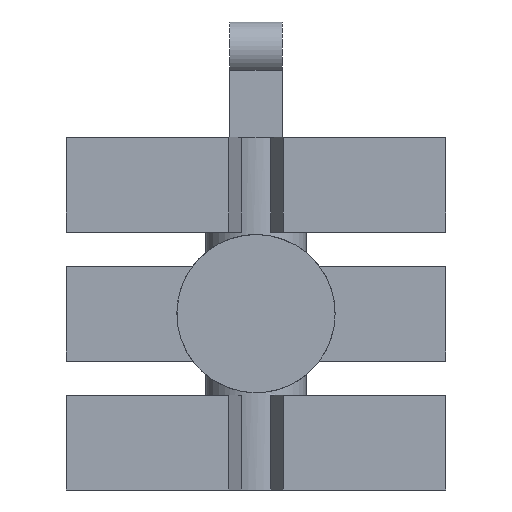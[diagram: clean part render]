
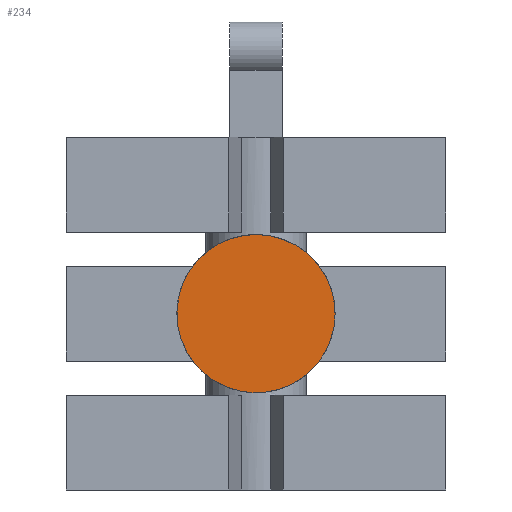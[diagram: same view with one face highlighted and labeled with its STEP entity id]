
A CAD part, front view. The second image highlights one B-rep face of the part: STEP entity #234.
In plain terms, the highlighted planar face has unit normal (0, -1, 0).
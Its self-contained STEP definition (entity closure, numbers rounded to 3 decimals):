
#234 = ADVANCED_FACE( '', ( #474 ), #475, .F. );
#474 = FACE_OUTER_BOUND( '', #713, .T. );
#475 = PLANE( '', #714 );
#713 = EDGE_LOOP( '', ( #1386 ) );
#714 = AXIS2_PLACEMENT_3D( '', #1387, #1388, #1389 );
#1386 = ORIENTED_EDGE( '', *, *, #1703, .F. );
#1387 = CARTESIAN_POINT( '', ( 0., -13.3, -39. ) );
#1388 = DIRECTION( '', ( 0., 1., 0. ) );
#1389 = DIRECTION( '', ( 0., 0., 1. ) );
#1703 = EDGE_CURVE( '', #2125, #2125, #2126, .T. );
#2125 = VERTEX_POINT( '', #2742 );
#2126 = CIRCLE( '', #2743, 11.658 );
#2742 = CARTESIAN_POINT( '', ( 11.658, -13.3, -39. ) );
#2743 = AXIS2_PLACEMENT_3D( '', #3031, #3032, #3033 );
#3031 = CARTESIAN_POINT( '', ( 0., -13.3, -39. ) );
#3032 = DIRECTION( '', ( 0., 1., 0. ) );
#3033 = DIRECTION( '', ( 1., 0., 0. ) );
